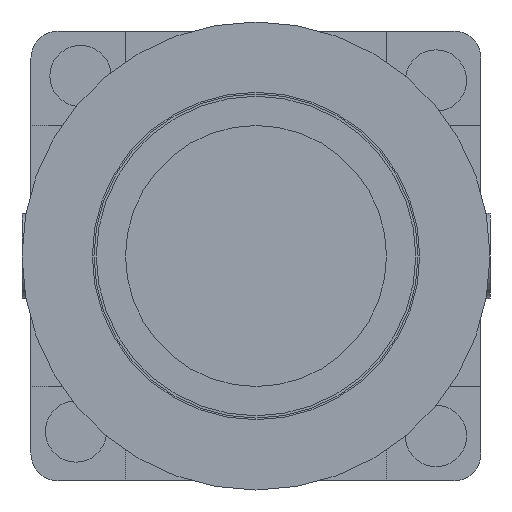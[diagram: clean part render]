
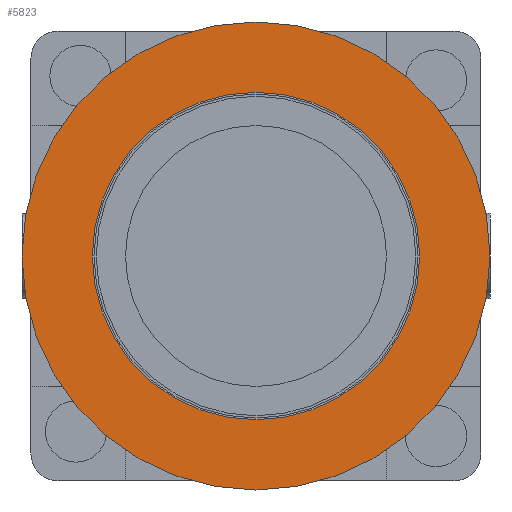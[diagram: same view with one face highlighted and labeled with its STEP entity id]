
A CAD part, left-side view. The second image highlights one B-rep face of the part: STEP entity #5823.
In plain terms, the highlighted planar face has unit normal (-1, 0, 0).
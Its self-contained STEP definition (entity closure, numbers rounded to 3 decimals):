
#2362=CARTESIAN_POINT('',(-11.3,-18.19,0.));
#2363=VERTEX_POINT('',#2362);
#2364=CARTESIAN_POINT('',(-11.3,0.0,0.0));
#2365=DIRECTION('',(-1.0,0.0,0.0));
#2366=DIRECTION('',(0.0,1.0,0.0));
#2367=AXIS2_PLACEMENT_3D('',#2364,#2365,#2366);
#2368=CIRCLE('',#2367,18.19);
#2369=EDGE_CURVE('',#2363,#2363,#2368,.T.);
#2379=CARTESIAN_POINT('',(-11.3,-26.0,0.));
#2380=VERTEX_POINT('',#2379);
#2381=CARTESIAN_POINT('',(-11.3,0.0,0.0));
#2382=DIRECTION('',(-1.0,0.0,0.0));
#2383=DIRECTION('',(0.0,1.0,0.0));
#2384=AXIS2_PLACEMENT_3D('',#2381,#2382,#2383);
#2385=CIRCLE('',#2384,26.0);
#2386=EDGE_CURVE('',#2380,#2380,#2385,.T.);
#5812=CARTESIAN_POINT('',(-11.3,22.095,0.));
#5813=DIRECTION('',(-1.0,0.0,0.0));
#5814=DIRECTION('',(0.0,0.0,1.0));
#5815=AXIS2_PLACEMENT_3D('',#5812,#5813,#5814);
#5816=PLANE('',#5815);
#5817=ORIENTED_EDGE('',*,*,#2386,.T.);
#5818=EDGE_LOOP('',(#5817));
#5819=FACE_OUTER_BOUND('',#5818,.T.);
#5820=ORIENTED_EDGE('',*,*,#2369,.F.);
#5821=EDGE_LOOP('',(#5820));
#5822=FACE_BOUND('',#5821,.T.);
#5823=ADVANCED_FACE('',(#5819,#5822),#5816,.T.);
